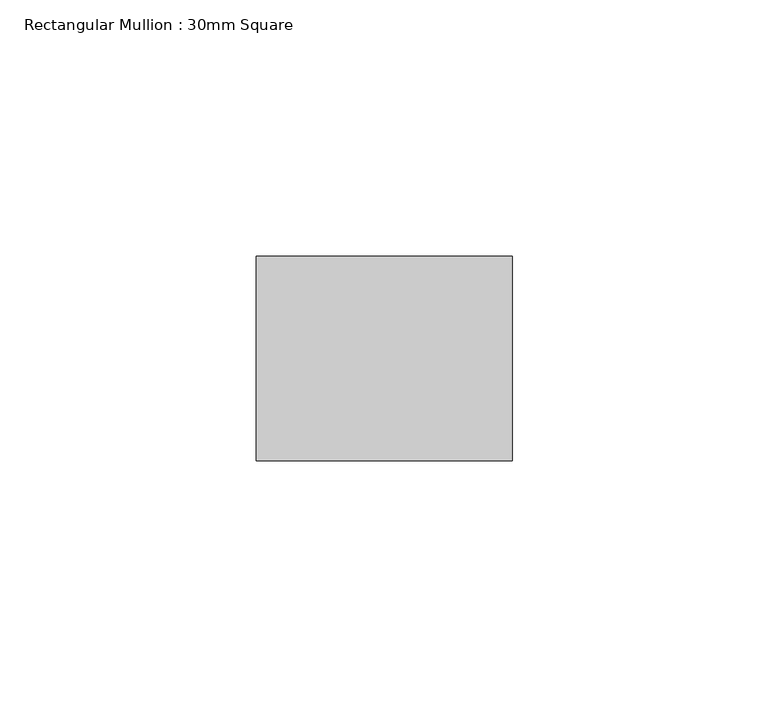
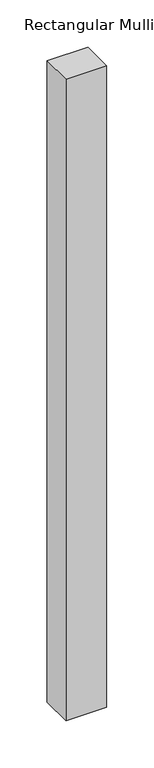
"""IFC4 building model written with IfcOpenShell, lengths in millimetres: member geometry, Rectangular Mullion : 30mm Square."""

from ifc_helpers import new_model, si_unit, frame, origin, place, context, project, spatial, polyline, outline, extrude, source, transform, mapped, element, save


def rectangular_mullion_30mm_square_53190b3b(model_context):
    return source(origin(), model_context, "Body", "SweptSolid", [
        extrude(outline(polyline([(0.0, 20.0), (0.0, -20.0), (-50.0, -20.0), (-50.0, 20.0), (0.0, 20.0)])), frame((0.0, 0.0, -830.0), z_axis=(0.0, 0.0, 1.0), x_axis=(1.0, 0.0, 0.0)), (0.0, 0.0, 1.0), 830.0),
    ])


if __name__ == "__main__":
    model = new_model("IFC4")
    model_context = context("Model", 3, world=origin())
    ifc_project = project(units=[si_unit("LENGTHUNIT", "METRE", prefix="MILLI")], contexts=[model_context])
    site = spatial("IfcSite", under=ifc_project)
    building = spatial("IfcBuilding", under=site)
    placement = place(None, origin())
    rectangular_mullion_30mm_square_shape = rectangular_mullion_30mm_square_53190b3b(model_context)
    element("IfcMember", 1, ObjectType="Rectangular Mullion : 30mm Square", at=placement, inside=building, context=model_context, shape_type="MappedRepresentation", body=[
        mapped(rectangular_mullion_30mm_square_shape, transform((0.0, 0.0, 0.0), x_axis=(1.0, 0.0, 0.0), y_axis=(0.0, 1.0, 0.0), z_axis=(0.0, 0.0, 1.0))),
    ])
    save(model, "model.ifc")
